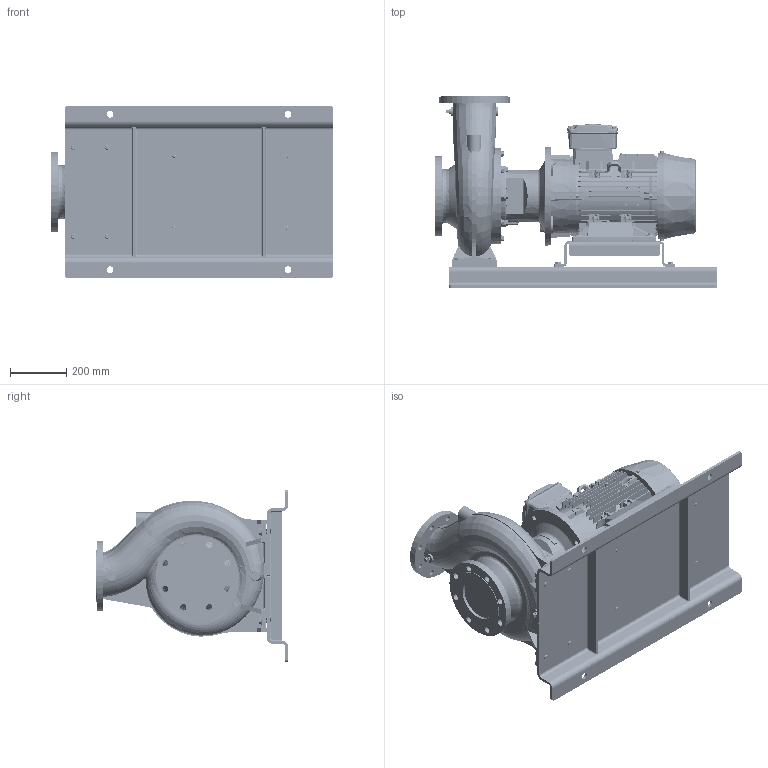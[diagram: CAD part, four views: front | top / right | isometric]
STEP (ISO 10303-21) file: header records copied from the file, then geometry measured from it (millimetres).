
FILE_DESCRIPTION (( 'STEP AP214' ), '1' );
FILE_NAME ('GSD4 125-250_11.0 & 15.0_(160ML)_W21_BP.STEP', '2026-05-08T04:59:09', ( '' ), ( '' ), 'SwSTEP 2.0', 'SolidWorks 2024', '' );
FILE_SCHEMA (( 'AUTOMOTIVE_DESIGN' ));
Length unit declared in the file: millimetre
Products named in the file (13): Parametric bolt and washer_SFT-A297B; Parametric bolt_SFT-A303B; Parametric Flat Washer_M16; Parametric bolt and washer_SFT-A303B; Parametric bolt_SFT-A353B; Parametric bolt_SFT-A297B; Parametric bolt and washer_SFT-A353B; 125-250-160M_L; N7S3 GSDA-733 F1-1832946-00; 160M_L_ALIE3_W21T_B35; Parametric Flat Washer_M12; CGS11-5254; GSD4 125-250_11.0 & 15.0_(160ML)_W21_BP
Assembly tree (22 placements, depth 3):
  GSD4 125-250_11.0 & 15.0_(160ML)_W21_BP
    125-250-160M_L
    N7S3 GSDA-733 F1-1832946-00
    CGS11-5254
    Parametric bolt and washer_SFT-A353B  x4
      Parametric bolt_SFT-A353B
      Parametric Flat Washer_M16
    Parametric bolt and washer_SFT-A297B  x4
      Parametric bolt_SFT-A297B
      Parametric Flat Washer_M12
    Parametric bolt and washer_SFT-A303B  x4
      Parametric bolt_SFT-A303B
      Parametric Flat Washer_M12
    160M_L_ALIE3_W21T_B35
Bounding box: 1000 x 680 x 610 mm (x, y, z)
Volume: 73649372.6 mm3; surface area: 5224231.1 mm2
Topology: 64 solids, 70 shells, 6555 faces, 16932 edges, 10941 vertices
Faces by surface type: plane 3848, cylinder 1383, cone 619, bspline 458, torus 229, sphere 18
Entity records: 264564 total; most frequent: CARTESIAN_POINT 123670, ORIENTED_EDGE 30830, DIRECTION 26212, EDGE_CURVE 15415, VERTEX_POINT 9972, VECTOR 9718, LINE 9718, AXIS2_PLACEMENT_3D 8247
